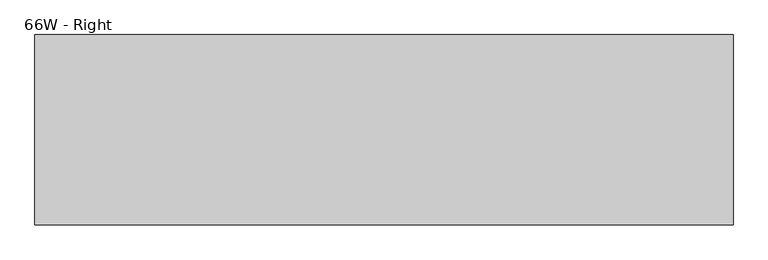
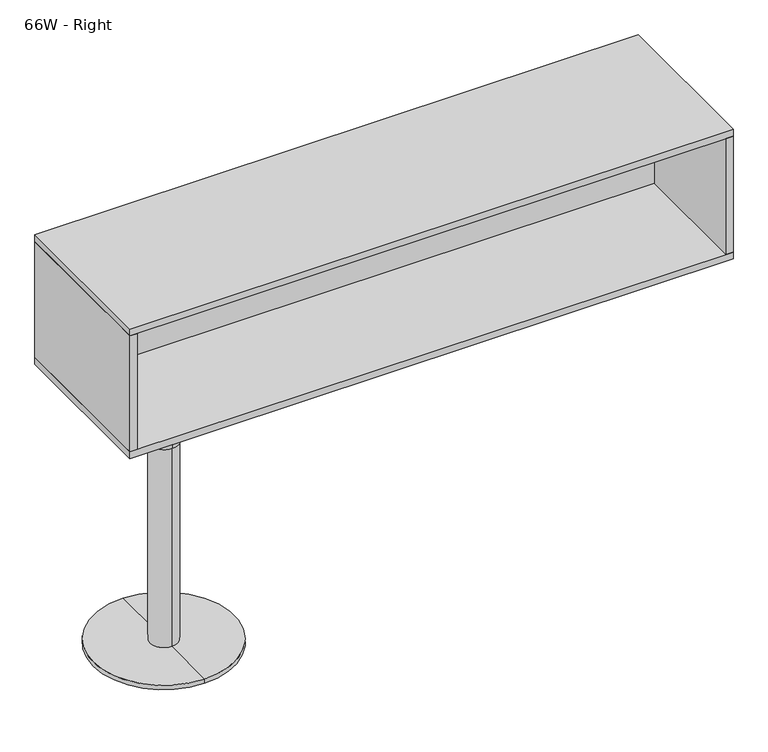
"""IFC4 building model written with IfcOpenShell, lengths in millimetres: furniture geometry, Steelcase - Duo Storage - For Use with Answer Junction - Tall Storage with Leg - Individual : 66W - Right."""

from ifc_helpers import new_model, si_unit, frame, origin, place, context, project, spatial, polyline, circle_curve, outline, extrude, source, transform, mapped, element, save
from ifc_brep_helpers import plane_surface, cylinder_surface, advanced_brep


def furniture_66w_right_cff1954f(model_context):
    return source(origin(), model_context, "Body", "SolidModel", [
        extrude(outline(polyline([(1656.0797287, 115.3159264), (20.32, 115.3159264), (20.32, 137.1599419), (1656.0797287, 137.1599419), (1656.0797287, 115.3159264)])), frame((0.0, 0.0, 779.2719806), z_axis=(0.0, 0.0, 1.0), x_axis=(1.0, 0.0, 0.0)), (0.0, 0.0, 1.0), 340.3600194),
        advanced_brep(
        [(226.0597287, 196.1389534, 0.0), (226.0597287, -196.1389534, 0.0), (226.0597287, -196.1389534, 12.7), (226.0597287, 196.1389534, 12.7), (226.0597287, 0.0, 0.0), (226.0597287, 41.4195882, 758.952), (226.0597287, -41.4195882, 758.952), (226.0597287, 0.0, 758.952), (226.0597287, 41.4195882, 596.9), (226.0597287, -41.4195882, 596.9), (226.0597287, 38.1, 596.9), (226.0597287, -38.1, 596.9), (226.0597287, 38.1, 12.7), (226.0597287, -38.1, 12.7)],
        [
            (0, 1, circle_curve(frame((226.0597287, 0.0, 0.0), z_axis=(0.0, 0.0, 1.0), x_axis=(0.0, -1.0, 0.0)), 196.1389534)),
            (1, 2),
            (2, 3, circle_curve(frame((226.0597287, 0.0, 12.7), z_axis=(0.0, 0.0, -1.0), x_axis=(0.0, -1.0, 0.0)), 196.1389534)),
            (3, 0),
            (1, 0, circle_curve(frame((226.0597287, 0.0, 0.0), z_axis=(0.0, 0.0, 1.0), x_axis=(0.0, -1.0, 0.0)), 196.1389534)),
            (3, 2, circle_curve(frame((226.0597287, 0.0, 12.7), z_axis=(0.0, 0.0, -1.0), x_axis=(0.0, -1.0, 0.0)), 196.1389534)),
            (4, 1),
            (0, 4),
            (5, 6, circle_curve(frame((226.0597287, 0.0, 758.952), z_axis=(0.0, 0.0, 1.0), x_axis=(0.0, -1.0, 0.0)), 41.4195882)),
            (6, 7),
            (7, 5),
            (6, 5, circle_curve(frame((226.0597287, 0.0, 758.952), z_axis=(0.0, 0.0, 1.0), x_axis=(0.0, -1.0, 0.0)), 41.4195882)),
            (8, 9, circle_curve(frame((226.0597287, 0.0, 596.9), z_axis=(0.0, 0.0, 1.0), x_axis=(0.0, -1.0, 0.0)), 41.4195882)),
            (9, 6),
            (5, 8),
            (9, 8, circle_curve(frame((226.0597287, 0.0, 596.9), z_axis=(0.0, 0.0, 1.0), x_axis=(0.0, -1.0, 0.0)), 41.4195882)),
            (10, 11, circle_curve(frame((226.0597287, 0.0, 596.9), z_axis=(0.0, 0.0, 1.0), x_axis=(0.0, -1.0, 0.0)), 38.1)),
            (11, 9),
            (8, 10),
            (11, 10, circle_curve(frame((226.0597287, 0.0, 596.9), z_axis=(0.0, 0.0, 1.0), x_axis=(0.0, -1.0, 0.0)), 38.1)),
            (12, 13, circle_curve(frame((226.0597287, 0.0, 12.7), z_axis=(0.0, 0.0, 1.0), x_axis=(0.0, -1.0, 0.0)), 38.1)),
            (13, 11),
            (10, 12),
            (13, 12, circle_curve(frame((226.0597287, 0.0, 12.7), z_axis=(0.0, 0.0, 1.0), x_axis=(0.0, -1.0, 0.0)), 38.1)),
            (2, 13),
            (12, 3),
        ],
        [
            cylinder_surface(frame((226.0597287, 0.0, 581.025), z_axis=(0.0, 0.0, -1.0), x_axis=(0.0, -1.0, 0.0)), 196.1389534),
            plane_surface(frame((226.0597287, 0.0, 0.0), z_axis=(0.0, 0.0, -1.0), x_axis=(0.0, -1.0, 0.0))),
            plane_surface(frame((226.0597287, 0.0, 758.952), z_axis=(0.0, 0.0, 1.0), x_axis=(0.0, -1.0, 0.0))),
            cylinder_surface(frame((226.0597287, 0.0, 581.025), z_axis=(0.0, 0.0, -1.0), x_axis=(0.0, -1.0, 0.0)), 41.4195882),
            plane_surface(frame((226.0597287, 0.0, 596.9), z_axis=(0.0, 0.0, -1.0), x_axis=(0.0, -1.0, 0.0))),
            cylinder_surface(frame((226.0597287, 0.0, 581.025), z_axis=(0.0, 0.0, -1.0), x_axis=(0.0, -1.0, 0.0)), 38.1),
            plane_surface(frame((226.0597287, 0.0, 12.7), z_axis=(0.0, 0.0, 1.0), x_axis=(0.0, -1.0, 0.0))),
        ],
        [
            (0, [[1, 2, 3, 4]]),
            (0, [[5, -4, 6, -2]]),
            (1, [[7, -1, 8]]),
            (1, [[-8, -5, -7]]),
            (2, [[9, 10, 11]]),
            (2, [[12, -11, -10]]),
            (3, [[13, 14, -9, 15]]),
            (3, [[16, -15, -12, -14]]),
            (4, [[17, 18, -13, 19]]),
            (4, [[20, -19, -16, -18]]),
            (5, [[21, 22, -17, 23]]),
            (5, [[24, -23, -20, -22]]),
            (6, [[-3, 25, -21, 26]]),
            (6, [[-6, -26, -24, -25]]),
        ],
    ),
        extrude(outline(polyline([(1676.4, 228.6), (1676.4, -228.6), (1656.0797287, -228.6), (1656.0797287, 228.6), (1676.4, 228.6)])), frame((0.0, 0.0, 779.2719806), z_axis=(0.0, 0.0, 1.0), x_axis=(1.0, 0.0, 0.0)), (0.0, 0.0, 1.0), 340.3600194),
        extrude(outline(polyline([(20.32, 228.6), (20.32, -228.6), (0.0, -228.6), (0.0, 228.6), (20.32, 228.6)])), frame((0.0, 0.0, 779.2719806), z_axis=(0.0, 0.0, 1.0), x_axis=(1.0, 0.0, 0.0)), (0.0, 0.0, 1.0), 340.3600194),
        extrude(outline(polyline([(1676.4, 228.6), (1676.4, -228.6), (0.0, -228.6), (0.0, 228.6), (1676.4, 228.6)])), frame((0.0, 0.0, 1119.632), z_axis=(0.0, 0.0, 1.0), x_axis=(1.0, 0.0, 0.0)), (0.0, 0.0, 1.0), 20.32),
        extrude(outline(polyline([(1676.4, 228.6), (1676.4, -228.6), (0.0, -228.6), (0.0, 228.6), (1676.4, 228.6)])), frame((0.0, 0.0, 758.952), z_axis=(0.0, 0.0, 1.0), x_axis=(1.0, 0.0, 0.0)), (0.0, 0.0, 1.0), 20.3199806),
    ])


if __name__ == "__main__":
    model = new_model("IFC4")
    model_context = context("Model", 3, world=origin())
    ifc_project = project(units=[si_unit("LENGTHUNIT", "METRE", prefix="MILLI")], contexts=[model_context])
    site = spatial("IfcSite", under=ifc_project)
    building = spatial("IfcBuilding", under=site)
    placement = place(None, origin())
    furniture_66w_right_shape = furniture_66w_right_cff1954f(model_context)
    element("IfcFurniture", 1, ObjectType="Steelcase - Duo Storage - For Use with Answer Junction - Tall Storage with Leg - Individual : 66W - Right", at=placement, inside=building, context=model_context, shape_type="MappedRepresentation", body=[
        mapped(furniture_66w_right_shape, transform((0.0, 0.0, 0.0), x_axis=(1.0, 0.0, 0.0), y_axis=(0.0, 1.0, 0.0), z_axis=(0.0, 0.0, 1.0))),
    ])
    save(model, "model.ifc")
